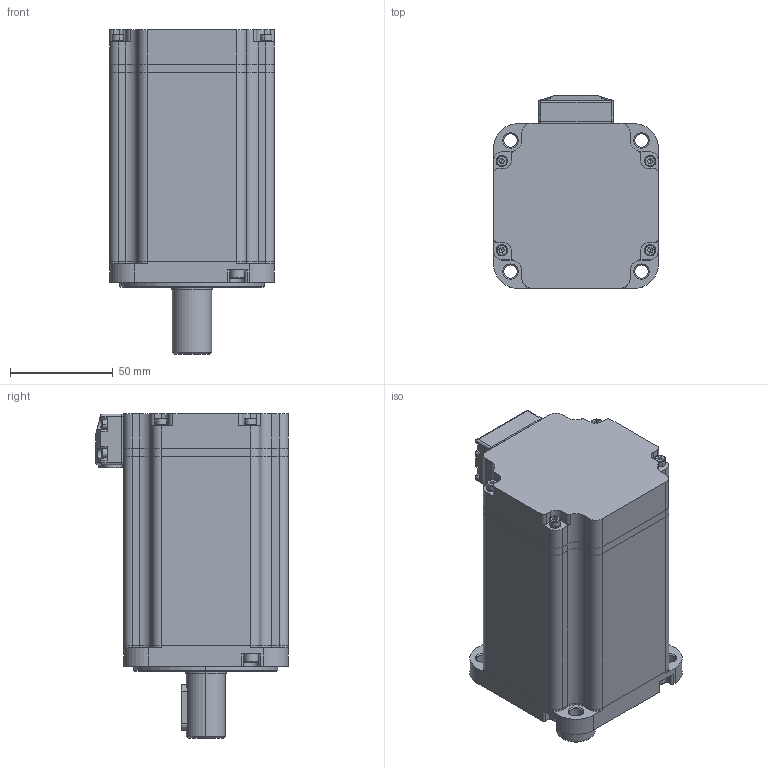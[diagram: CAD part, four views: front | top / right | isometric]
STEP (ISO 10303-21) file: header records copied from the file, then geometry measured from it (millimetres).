
FILE_DESCRIPTION (( 'STEP AP203' ), '1' );
FILE_NAME ('9.7445-SMC80S-0100-30QAK-5DSU.STEP', '2021-10-28T05:06:56', ( '' ), ( '' ), 'SwSTEP 2.0', 'SolidWorks 2018', '' );
FILE_SCHEMA (( 'CONFIG_CONTROL_DESIGN' ));
Length unit declared in the file: millimetre
Products named in the file (1): 9.7445-SMC80S-0100-30QAK-5DSU
Bounding box: 80 x 93.5 x 157.7 mm (x, y, z)
Volume: 282312.2 mm3; surface area: 172907.2 mm2
Topology: 41 solids, 41 shells, 2052 faces, 5620 edges, 3563 vertices
Faces by surface type: cylinder 855, plane 735, sphere 172, torus 163, cone 113, bspline 14
Entity records: 69082 total; most frequent: CARTESIAN_POINT 17203, DIRECTION 11148, ORIENTED_EDGE 10844, EDGE_CURVE 5422, AXIS2_PLACEMENT_3D 4407, VERTEX_POINT 3513, CIRCLE 2368, LINE 2334
